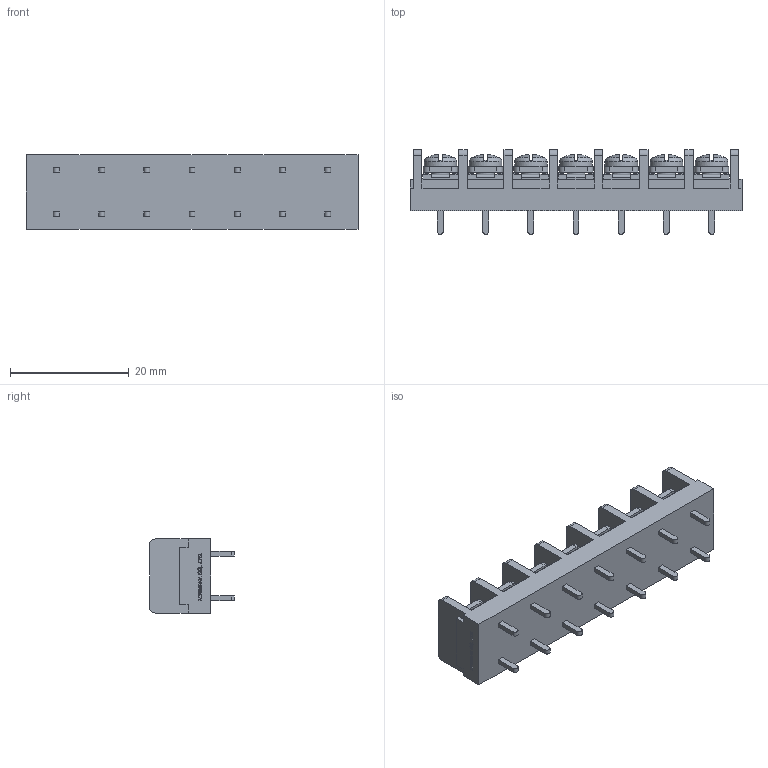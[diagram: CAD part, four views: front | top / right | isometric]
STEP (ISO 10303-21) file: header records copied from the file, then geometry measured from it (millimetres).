
FILE_DESCRIPTION(/* description */ ('Alibre Inc.'),/* implementation_level */ '2;1');
FILE_NAME(/* name */ 'export0',/* time_stamp */ '2015-10-26T18:21:58+09:00',/* author */ (''),/* organization */ (''),/* preprocessor_version */ 'ST-DEVELOPER v14',/* originating_system */ 'Alibre',/* authorisation */ '');
FILE_SCHEMA (('CONFIG_CONTROL_DESIGN'));
Length unit declared in the file: centimetre
Products named in the file (1): ID_1
Bounding box: 55.96 x 14.3 x 12.5 mm (x, y, z)
Volume: 5085.7 mm3; surface area: 4713.4 mm2
Topology: 1 solids, 1 shells, 1093 faces, 2978 edges, 1962 vertices
Faces by surface type: plane 847, bspline 104, cylinder 86, cone 28, torus 14, sphere 14
Full cylindrical faces by diameter (mm): 3 x7, 5.5 x7
Entity records: 32737 total; most frequent: CARTESIAN_POINT 7172, ORIENTED_EDGE 5872, DIRECTION 3976, EDGE_CURVE 2936, VECTOR 2136, LINE 2136, VERTEX_POINT 1948, AXIS2_PLACEMENT_3D 1308
